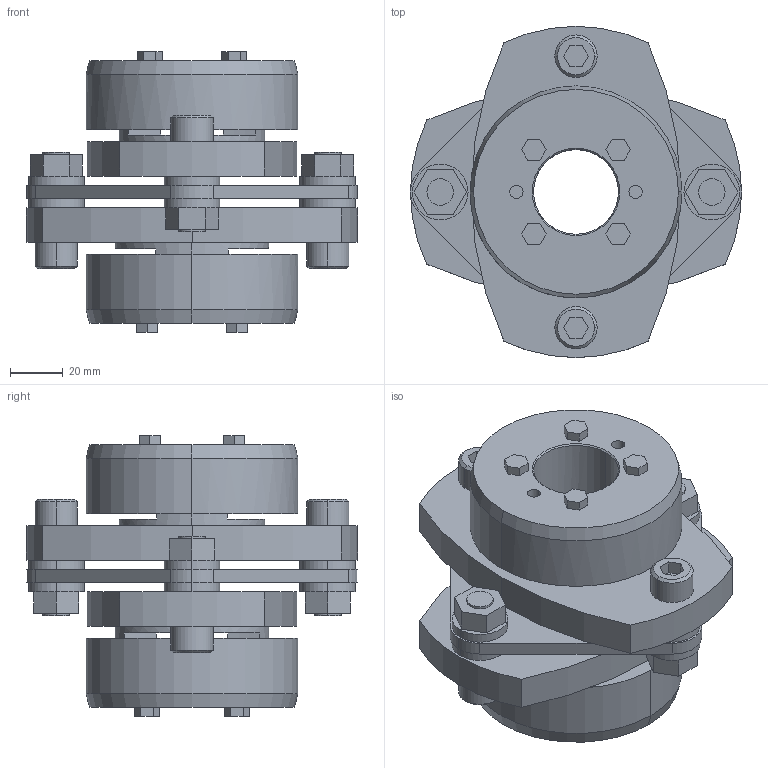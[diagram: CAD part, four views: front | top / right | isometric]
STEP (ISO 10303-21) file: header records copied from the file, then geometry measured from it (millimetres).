
FILE_DESCRIPTION((''),'2;1');
FILE_NAME('LCS-125T7-32×35.stp','2011-09-07T09:48:35',(''),(''),'AutoCAD STEP 2000i','AutoCAD 2000i',', , ');
FILE_SCHEMA(('CONFIG_CONTROL_DESIGN'));
Length unit declared in the file: millimetre
Products named in the file (6): LCS-125T7-32×35; 忣兜1; LC125T7-T035; LC125T7-T032-1; LC125T7-T032; LCS125-ITA
Assembly tree (5 placements, depth 2):
  LCS-125T7-32×35
    忣兜1
    LC125T7-T035
    LC125T7-T032-1
    LC125T7-T032
    LCS125-ITA
Bounding box: 125 x 125 x 106 mm (x, y, z)
Volume: 481138.4 mm3; surface area: 96951.4 mm2
Topology: 1 solids, 1 shells, 246 faces, 606 edges, 398 vertices
Faces by surface type: plane 146, cylinder 80, cone 20
Entity records: 7485 total; most frequent: DIRECTION 1308, CARTESIAN_POINT 1256, ORIENTED_EDGE 1212, EDGE_CURVE 606, AXIS2_PLACEMENT_3D 450, VECTOR 408, LINE 408, VERTEX_POINT 398
